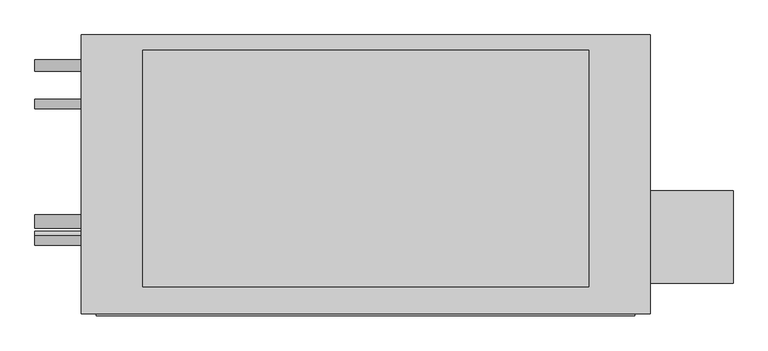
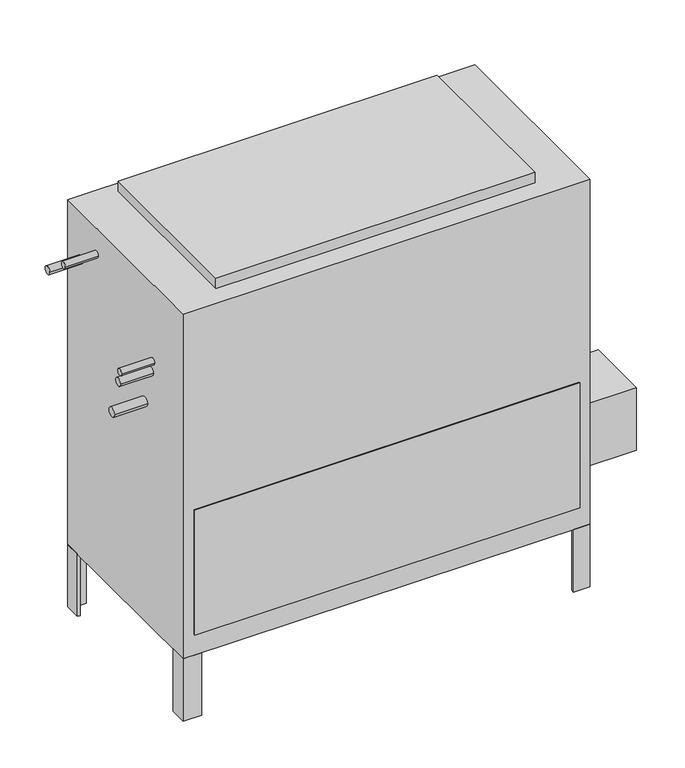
"""IFC4 building model written with IfcOpenShell, lengths in millimetres: proxy geometry, Concealed_High_Capacity_Vertical_Fan_Coil_Unit_-_42DDA_-_CARRIER_-_4-Pipe_LH_2022 : Size 12 - 277v/60Hz/1Ph - 4/2 Coil."""

from ifc_helpers import new_model, si_unit, point, frame, frame_2d, origin, origin_with_axes, place, context, project, spatial, polyline, circle_curve, trimmed, segment, composite_curve, outline, extrude, source, transform, mapped, element, save


def mechanical_equipment_de64c2ab(model_context):
    return source(origin(), model_context, "Body", "SweptSolid", [
        extrude(outline(polyline([(758.825, -265.1125), (758.825, -417.5125), (622.3, -417.5125), (622.3, -265.1125), (758.825, -265.1125)])), frame((0.0, 0.0, 101.6), z_axis=(0.0, 0.0, 1.0), x_axis=(1.0, 0.0, 0.0)), (0.0, 0.0, 1.0), 152.4),
        extrude(outline(polyline([(622.3, -46.0375), (615.95, -46.0375), (615.95, -14.2875), (584.2, -14.2875), (584.2, -7.9375), (622.3, -7.9375), (622.3, -46.0375)])), frame((0.0, 0.0, -152.4), z_axis=(0.0, 0.0, 1.0), x_axis=(1.0, 0.0, 0.0)), (0.0, 0.0, 1.0), 152.4),
        extrude(outline(polyline([(-279.4, -7.9375), (-279.4, -14.2875), (-311.15, -14.2875), (-311.15, -46.0375), (-317.5, -46.0375), (-317.5, -7.9375), (-279.4, -7.9375)])), frame((0.0, 0.0, -152.4), z_axis=(0.0, 0.0, 1.0), x_axis=(1.0, 0.0, 0.0)), (0.0, 0.0, 1.0), 152.4),
        extrude(outline(polyline([(584.2, -468.3125), (584.2, -461.9625), (615.95, -461.9625), (615.95, -430.2125), (622.3, -430.2125), (622.3, -468.3125), (584.2, -468.3125)])), frame((0.0, 0.0, -152.4), z_axis=(0.0, 0.0, 1.0), x_axis=(1.0, 0.0, 0.0)), (0.0, 0.0, 1.0), 152.4),
        extrude(outline(polyline([(-317.5, -428.1199163), (-311.15, -428.1199163), (-311.15, -461.9625), (-274.0318533, -461.9625), (-274.0318533, -468.3125), (-317.5, -468.3125), (-317.5, -428.1199163)])), frame((0.0, 0.0, -152.4), z_axis=(0.0, 0.0, 1.0), x_axis=(1.0, 0.0, 0.0)), (0.0, 0.0, 1.0), 152.4),
        extrude(outline(polyline([(520.7, -33.3375), (520.7, -423.8625), (-215.9, -423.8625), (-215.9, -33.3375), (520.7, -33.3375)])), frame((0.0, 0.0, 841.375), z_axis=(0.0, 0.0, 1.0), x_axis=(1.0, 0.0, 0.0)), (0.0, 0.0, 1.0), 25.4),
        extrude(outline(polyline([(596.9, -471.4875), (-292.1, -471.4875), (-292.1, -468.3125), (596.9, -468.3125), (596.9, -471.4875)])), frame((0.0, 0.0, 50.8), z_axis=(0.0, 0.0, 1.0), x_axis=(1.0, 0.0, 0.0)), (0.0, 0.0, 1.0), 304.8),
        extrude(outline(composite_curve([segment(trimmed(circle_curve(frame_2d((-122.2375, 777.875)), 7.9375), [point((-130.175, 777.875))], [point((-114.3, 777.875))], False, "CARTESIAN"), True, "CONTINUOUS"), segment(trimmed(circle_curve(frame_2d((-122.2375, 777.875)), 7.9375), [point((-114.3, 777.875))], [point((-130.175, 777.875))], False, "CARTESIAN"), True, "CONTINUOUS")], self_intersect=False)), frame((-393.7, 0.0, 0.0), z_axis=(1.0, 0.0, 0.0), x_axis=(0.0, 1.0, 0.0)), (0.0, 0.0, 1.0), 76.2),
        extrude(outline(composite_curve([segment(trimmed(circle_curve(frame_2d((-347.3848135, 653.2230057)), 7.9375), [point((-355.3223135, 653.2230057))], [point((-339.4473135, 653.2230057))], False, "CARTESIAN"), True, "CONTINUOUS"), segment(trimmed(circle_curve(frame_2d((-347.3848135, 653.2230057)), 7.9375), [point((-339.4473135, 653.2230057))], [point((-355.3223135, 653.2230057))], False, "CARTESIAN"), True, "CONTINUOUS")], self_intersect=False)), frame((-393.7, 0.0, 0.0), z_axis=(1.0, 0.0, 0.0), x_axis=(0.0, 1.0, 0.0)), (0.0, 0.0, 1.0), 76.2),
        extrude(outline(composite_curve([segment(trimmed(circle_curve(frame_2d((-58.7375, 727.075)), 9.525), [point((-68.2625, 727.075))], [point((-49.2125, 727.075))], False, "CARTESIAN"), True, "CONTINUOUS"), segment(trimmed(circle_curve(frame_2d((-58.7375, 727.075)), 9.525), [point((-49.2125, 727.075))], [point((-68.2625, 727.075))], False, "CARTESIAN"), True, "CONTINUOUS")], self_intersect=False)), frame((-393.7, 0.0, 0.0), z_axis=(1.0, 0.0, 0.0), x_axis=(0.0, 1.0, 0.0)), (0.0, 0.0, 1.0), 76.2),
        extrude(outline(composite_curve([segment(trimmed(circle_curve(frame_2d((-341.3125, 625.475)), 9.525), [point((-350.8375, 625.475))], [point((-331.7875, 625.475))], False, "CARTESIAN"), True, "CONTINUOUS"), segment(trimmed(circle_curve(frame_2d((-341.3125, 625.475)), 9.525), [point((-331.7875, 625.475))], [point((-350.8375, 625.475))], False, "CARTESIAN"), True, "CONTINUOUS")], self_intersect=False)), frame((-393.7, 0.0, 0.0), z_axis=(1.0, 0.0, 0.0), x_axis=(0.0, 1.0, 0.0)), (0.0, 0.0, 1.0), 76.2),
        extrude(outline(composite_curve([segment(trimmed(circle_curve(frame_2d((-315.9125, 536.575)), 11.1125), [point((-327.025, 536.575))], [point((-304.8, 536.575))], False, "CARTESIAN"), True, "CONTINUOUS"), segment(trimmed(circle_curve(frame_2d((-315.9125, 536.575)), 11.1125), [point((-304.8, 536.575))], [point((-327.025, 536.575))], False, "CARTESIAN"), True, "CONTINUOUS")], self_intersect=False)), frame((-393.7, 0.0, 0.0), z_axis=(1.0, 0.0, 0.0), x_axis=(0.0, 1.0, 0.0)), (0.0, 0.0, 1.0), 76.2),
        extrude(outline(polyline([(622.3, -7.9375), (622.3, -468.3125), (-317.5, -468.3125), (-317.5, -7.9375), (622.3, -7.9375)])), origin_with_axes(), (0.0, 0.0, 1.0), 841.375),
    ])


if __name__ == "__main__":
    model = new_model("IFC4")
    model_context = context("Model", 3, world=origin())
    ifc_project = project(units=[si_unit("LENGTHUNIT", "METRE", prefix="MILLI")], contexts=[model_context])
    site = spatial("IfcSite", under=ifc_project)
    building = spatial("IfcBuilding", under=site)
    placement = place(None, origin())
    mechanical_equipment_shape = mechanical_equipment_de64c2ab(model_context)
    element("IfcBuildingElementProxy", 1, Name="Concealed_High_Capacity_Vertical_Fan_Coil_Unit_-_42DDA_-_CARRIER_-_4-Pipe_LH_2022 : Size 12 - 277v/60Hz/1Ph - 4/2 Coil", ObjectType="Concealed_High_Capacity_Vertical_Fan_Coil_Unit_-_42DDA_-_CARRIER_-_4-Pipe_LH_2022 : Size 12 - 277v/60Hz/1Ph - 4/2 Coil", at=placement, inside=building, context=model_context, shape_type="MappedRepresentation", body=[
        mapped(mechanical_equipment_shape, transform((0.0, 0.0, 0.0), x_axis=(1.0, 0.0, 0.0), y_axis=(0.0, 1.0, 0.0), z_axis=(0.0, 0.0, 1.0))),
    ])
    save(model, "model.ifc")
